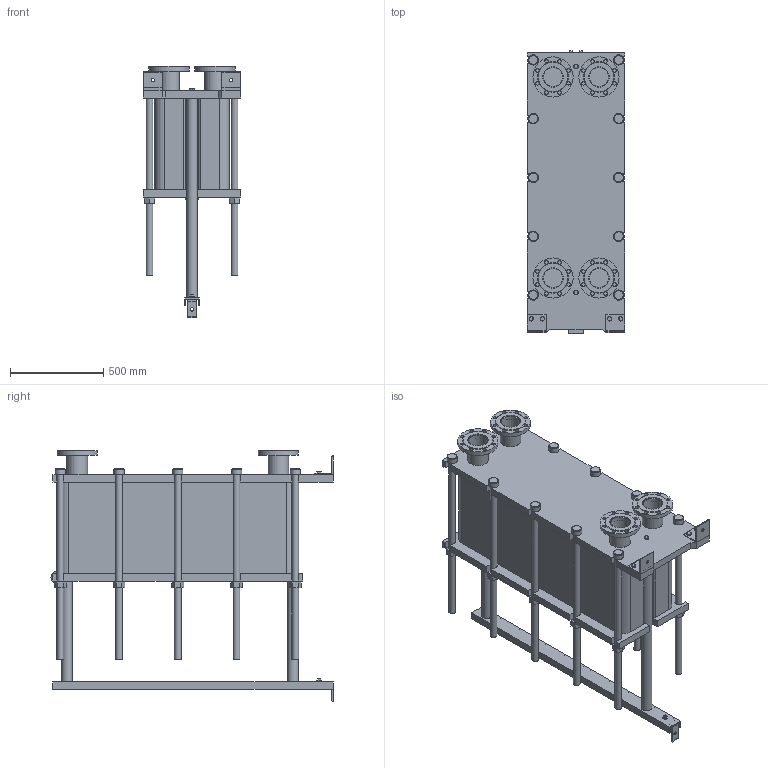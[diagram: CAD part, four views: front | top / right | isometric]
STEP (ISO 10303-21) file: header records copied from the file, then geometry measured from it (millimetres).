
FILE_DESCRIPTION(/* description */ (''),/* implementation_level */ '2;1');
FILE_NAME(/* name */ 'C:\Users\zhuro\Desktop\ENCO\TO\ЭН-04\ЭН-0,5-04-142-1.stp',/* time_stamp */ '2022-06-06T10:58:08+03:00',/* author */ ('zhuro'),/* organization */ (''),/* preprocessor_version */ 'ST-DEVELOPER v18.1',/* originating_system */ 'Autodesk Inventor 2022',/* authorisation */ '');
FILE_SCHEMA (('AUTOMOTIVE_DESIGN { 1 0 10303 214 3 1 1 }'));
Length unit declared in the file: millimetre
Products named in the file (1): ЭН-0,5-04-142-1
Bounding box: 520 x 1510 x 1346 mm (x, y, z)
Volume: 318297273.5 mm3; surface area: 9278845.9 mm2
Topology: 45 solids, 45 shells, 668 faces, 1611 edges, 1048 vertices
Faces by surface type: plane 457, cylinder 166, cone 39, torus 6
Full cylindrical faces by diameter (mm): 8 x4, 10 x2, 16 x8, 18 x35, 36 x25, 40 x2, 42 x1, 45 x4, 54 x10, 57 x2, 60 x10, 68 x2, 100 x4, 110 x8, 215 x4
Entity records: 23607 total; most frequent: CARTESIAN_POINT 7348, DIRECTION 3371, ORIENTED_EDGE 3142, EDGE_CURVE 1571, AXIS2_PLACEMENT_3D 1199, VERTEX_POINT 1044, LINE 973, VECTOR 973
